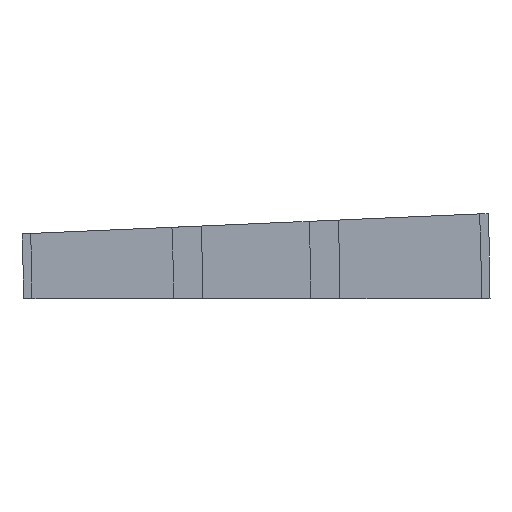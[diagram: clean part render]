
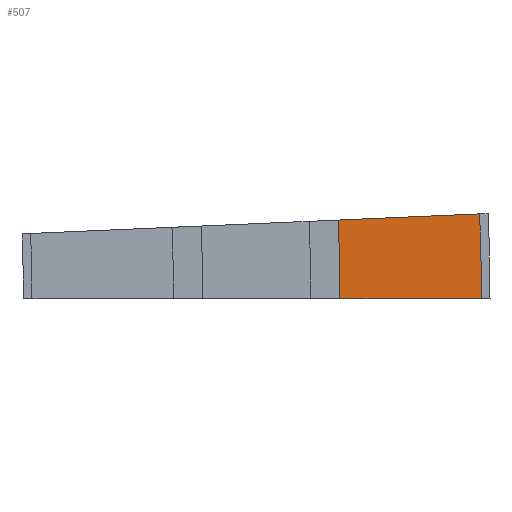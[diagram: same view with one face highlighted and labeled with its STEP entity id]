
A CAD part, left-side view. The second image highlights one B-rep face of the part: STEP entity #507.
In plain terms, the highlighted planar face has unit normal (-1, 0, 0).
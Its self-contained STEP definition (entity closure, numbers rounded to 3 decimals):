
#1 = EDGE_CURVE ( 'NONE', #634, #631, #680, .T. ) ;
#2 = EDGE_CURVE ( 'NONE', #633, #634, #682, .T. ) ;
#4 = EDGE_CURVE ( 'NONE', #627, #631, #681, .T. ) ;
#50 = AXIS2_PLACEMENT_3D ( 'NONE', #918, #919, #921 ) ;
#116 = PLANE ( 'NONE',  #940 ) ;
#181 = DIRECTION ( 'NONE',  ( 1., 0., 0. ) ) ;
#182 = DIRECTION ( 'NONE',  ( 0., 0., -1. ) ) ;
#189 = DIRECTION ( 'NONE',  ( 0., -0.999, 0.044 ) ) ;
#190 = CARTESIAN_POINT ( 'NONE',  ( -211.5, -23.751, 22.867 ) ) ;
#274 = CARTESIAN_POINT ( 'NONE',  ( -211.5, -23.751, 22.867 ) ) ;
#277 = DIRECTION ( 'NONE',  ( 0., -1., 0. ) ) ;
#301 = CARTESIAN_POINT ( 'NONE',  ( -211.5, -65.5, 0. ) ) ;
#309 = DIRECTION ( 'NONE',  ( 0., 0., -1. ) ) ;
#323 = CARTESIAN_POINT ( 'NONE',  ( -211.5, -64.962, 24.667 ) ) ;
#347 = CARTESIAN_POINT ( 'NONE',  ( -211.5, -24.25, 0. ) ) ;
#360 = CARTESIAN_POINT ( 'NONE',  ( -211.5, 500., 0. ) ) ;
#364 = DIRECTION ( 'NONE',  ( 1., 0., 0. ) ) ;
#409 = CARTESIAN_POINT ( 'NONE',  ( -211.5, -24.25, 0. ) ) ;
#430 = CARTESIAN_POINT ( 'NONE',  ( -211.5, -23.751, 22.867 ) ) ;
#507 = ADVANCED_FACE ( 'NONE', ( #757 ), #116, .F. ) ;
#534 = ORIENTED_EDGE ( 'NONE', *, *, #1, .F. ) ;
#535 = ORIENTED_EDGE ( 'NONE', *, *, #4, .T. ) ;
#537 = ORIENTED_EDGE ( 'NONE', *, *, #1011, .T. ) ;
#538 = ORIENTED_EDGE ( 'NONE', *, *, #2, .F. ) ;
#586 = EDGE_LOOP ( 'NONE', ( #534, #538, #537, #535 ) ) ;
#627 = VERTEX_POINT ( 'NONE', #347 ) ;
#631 = VERTEX_POINT ( 'NONE', #301 ) ;
#633 = VERTEX_POINT ( 'NONE', #430 ) ;
#634 = VERTEX_POINT ( 'NONE', #323 ) ;
#680 = CIRCLE ( 'NONE', #961, 565.5 ) ;
#681 = LINE ( 'NONE', #409, #687 ) ;
#682 = LINE ( 'NONE', #190, #683 ) ;
#683 = VECTOR ( 'NONE', #189, 1000. ) ;
#687 = VECTOR ( 'NONE', #277, 1000. ) ;
#757 = FACE_OUTER_BOUND ( 'NONE', #586, .T. ) ;
#847 = CIRCLE ( 'NONE', #50, 524.25 ) ;
#918 = CARTESIAN_POINT ( 'NONE',  ( -211.5, 500., 0. ) ) ;
#919 = DIRECTION ( 'NONE',  ( 1., 0., 0. ) ) ;
#921 = DIRECTION ( 'NONE',  ( 0., 0., -1. ) ) ;
#940 = AXIS2_PLACEMENT_3D ( 'NONE', #274, #181, #182 ) ;
#961 = AXIS2_PLACEMENT_3D ( 'NONE', #360, #364, #309 ) ;
#1011 = EDGE_CURVE ( 'NONE', #633, #627, #847, .T. ) ;
